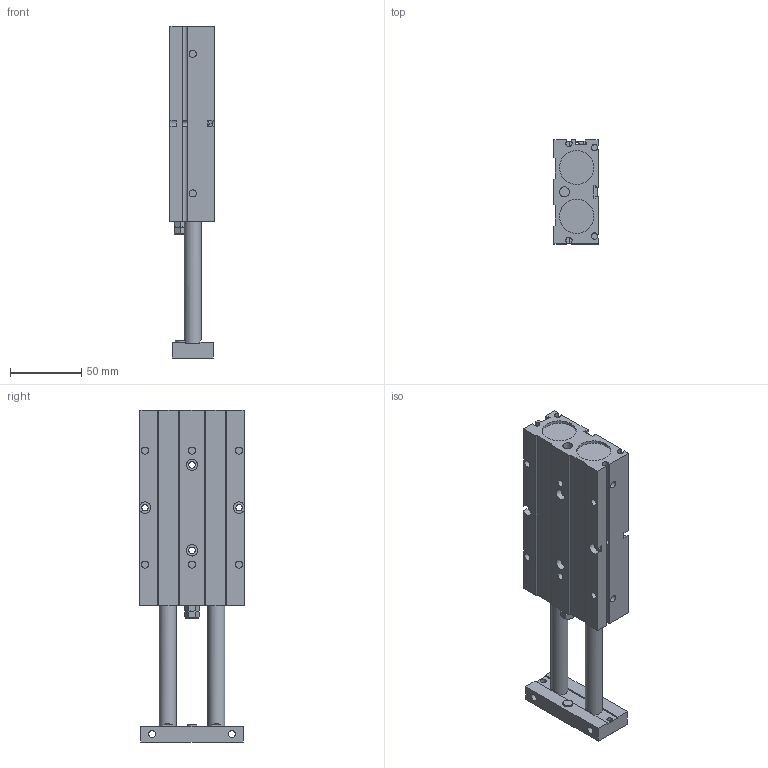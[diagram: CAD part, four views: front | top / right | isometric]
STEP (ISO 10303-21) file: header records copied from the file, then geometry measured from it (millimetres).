
FILE_DESCRIPTION((''),'2;1');
FILE_NAME('I:\3D電子目錄\氣缸\TD\TD25\TD25\TD25x75.stp','2007-08-06T09:53:10',('Administrator'),(''),'Autodesk Inventor 2008','Autodesk Inventor 2008','');
FILE_SCHEMA(('AUTOMOTIVE_DESIGN { 1 0 10303 214 1 1 1 1 }'));
Length unit declared in the file: millimetre
Products named in the file (1): TD25X75
Bounding box: 31 x 73 x 233 mm (x, y, z)
Volume: 322262.3 mm3; surface area: 58932.8 mm2
Topology: 1 solids, 3 shells, 197 faces, 494 edges, 324 vertices
Faces by surface type: plane 132, cylinder 52, cone 7, bspline 4, torus 2
Full cylindrical faces by diameter (mm): 4 x2, 4.5 x4, 5 x10, 7 x2, 8 x4, 10 x2, 11 x2, 12 x4, 24 x4
Entity records: 6021 total; most frequent: CARTESIAN_POINT 1449, DIRECTION 915, ORIENTED_EDGE 878, EDGE_CURVE 439, VERTEX_POINT 314, AXIS2_PLACEMENT_3D 312, VECTOR 291, LINE 291
